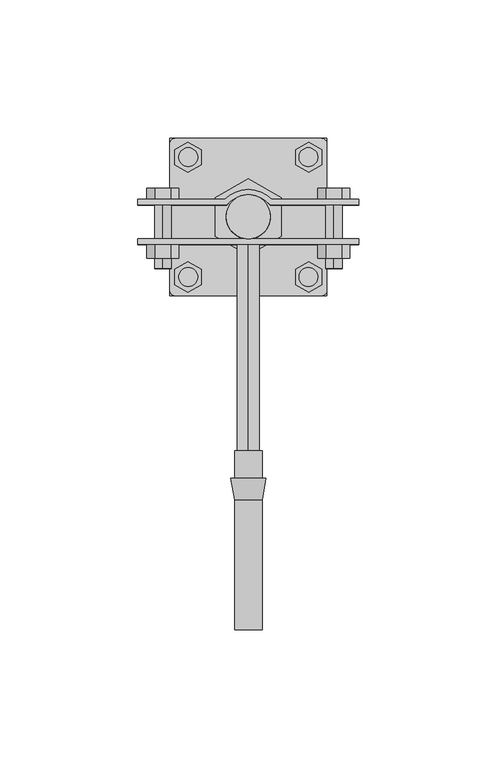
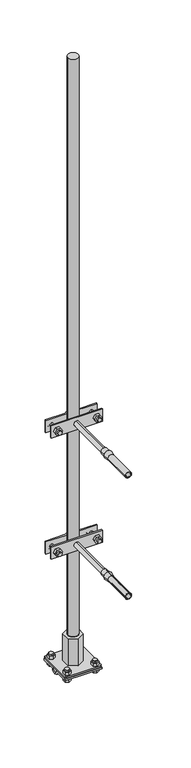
"""IFC4 building model written with IfcOpenShell, lengths in millimetres: proxy geometry, КНС_МолниеприемникСДержателями_DKC : NL7100CU_Медь_1м."""

from ifc_helpers import new_model, si_unit, point, frame, frame_2d, origin, origin_with_axes, place, context, project, spatial, polyline, circle_curve, trimmed, segment, composite_curve, outline, extrude, source, transform, mapped, element, save
from ifc_brep_helpers import plane_surface, cylinder_surface, revolved_surface, advanced_brep


def security_devices_521fa1ab(model_context):
    return source(origin(), model_context, "Body", "SolidModel", [
        extrude(outline(composite_curve([segment(trimmed(circle_curve(frame_2d((0.0, 84.6885885)), 8.0), [point((0.0, 76.6885885))], [point((0.0, 92.6885885))], False, "CARTESIAN"), True, "CONTINUOUS"), segment(trimmed(circle_curve(frame_2d((0.0, 84.6885885)), 8.0), [point((0.0, 92.6885885))], [point((0.0, 76.6885885))], False, "CARTESIAN"), True, "CONTINUOUS")], self_intersect=False)), frame((0.0, 0.0, 2.5), z_axis=(0.0, 0.0, 1.0), x_axis=(1.0, 0.0, 0.0)), (0.0, 0.0, 1.0), 45.0),
        extrude(outline(composite_curve([segment(polyline([(56.1885885, -3.5), (56.1885885, -1.0), (79.6885885, -1.0)]), True, "CONTINUOUS"), segment(trimmed(circle_curve(frame_2d((84.6885885, -1.0)), 5.0), [point((79.6885885, -1.0))], [point((89.6885885, -1.0))], True, "CARTESIAN"), True, "CONTINUOUS"), segment(polyline([(89.6885885, -1.0), (113.1885885, -1.0), (113.1885885, -3.5), (91.7596563, -3.5)]), True, "CONTINUOUS"), segment(trimmed(circle_curve(frame_2d((84.6885885, -1.0)), 7.5), [point((91.7596563, -3.5))], [point((77.6175207, -3.5))], False, "CARTESIAN"), True, "CONTINUOUS"), segment(polyline([(77.6175207, -3.5), (56.1885885, -3.5)]), True, "CONTINUOUS")], self_intersect=False)), frame((-28.5, 0.0, 0.0), z_axis=(1.0, 0.0, 0.0), x_axis=(0.0, 1.0, 0.0)), (0.0, 0.0, 1.0), 57.0),
        extrude(outline(composite_curve([segment(trimmed(circle_curve(frame_2d((-21.78125, 62.9764828)), 3.4209609), [point((-21.78125, 59.5555219))], [point((-21.78125, 66.3974437))], False, "CARTESIAN"), True, "CONTINUOUS"), segment(trimmed(circle_curve(frame_2d((-21.78125, 62.9764828)), 3.4209609), [point((-21.78125, 66.3974437))], [point((-21.78125, 59.5555219))], False, "CARTESIAN"), True, "CONTINUOUS")], self_intersect=False)), frame((0.0, 0.0, -3.5), z_axis=(0.0, 0.0, 1.0), x_axis=(1.0, 0.0, 0.0)), (0.0, 0.0, 1.0), 13.5),
        extrude(outline(composite_curve([segment(trimmed(circle_curve(frame_2d((-21.78125, 106.4006942)), 3.4209609), [point((-21.78125, 102.9797333))], [point((-21.78125, 109.8216551))], False, "CARTESIAN"), True, "CONTINUOUS"), segment(trimmed(circle_curve(frame_2d((-21.78125, 106.4006942)), 3.4209609), [point((-21.78125, 109.8216551))], [point((-21.78125, 102.9797333))], False, "CARTESIAN"), True, "CONTINUOUS")], self_intersect=False)), frame((0.0, 0.0, -3.5), z_axis=(0.0, 0.0, 1.0), x_axis=(1.0, 0.0, 0.0)), (0.0, 0.0, 1.0), 13.5),
        extrude(outline(composite_curve([segment(trimmed(circle_curve(frame_2d((21.78125, 62.9764828)), 3.4209609), [point((21.78125, 59.5555219))], [point((21.78125, 66.3974437))], False, "CARTESIAN"), True, "CONTINUOUS"), segment(trimmed(circle_curve(frame_2d((21.78125, 62.9764828)), 3.4209609), [point((21.78125, 66.3974437))], [point((21.78125, 59.5555219))], False, "CARTESIAN"), True, "CONTINUOUS")], self_intersect=False)), frame((0.0, 0.0, -3.5), z_axis=(0.0, 0.0, 1.0), x_axis=(1.0, 0.0, 0.0)), (0.0, 0.0, 1.0), 13.5),
        extrude(outline(composite_curve([segment(trimmed(circle_curve(frame_2d((21.78125, 106.4006942)), 3.4209609), [point((21.78125, 102.9797333))], [point((21.78125, 109.8216551))], False, "CARTESIAN"), True, "CONTINUOUS"), segment(trimmed(circle_curve(frame_2d((21.78125, 106.4006942)), 3.4209609), [point((21.78125, 109.8216551))], [point((21.78125, 102.9797333))], False, "CARTESIAN"), True, "CONTINUOUS")], self_intersect=False)), frame((0.0, 0.0, -3.5), z_axis=(0.0, 0.0, 1.0), x_axis=(1.0, 0.0, 0.0)), (0.0, 0.0, 1.0), 13.5),
        extrude(outline(polyline([(-21.8883083, 57.4889661), (-26.6406371, 60.2327244), (-26.6406371, 65.7202411), (-21.8883083, 68.4639995), (-17.1359794, 65.7202411), (-17.1359794, 60.2327244), (-21.8883083, 57.4889661)])), frame((0.0, 0.0, 2.5), z_axis=(0.0, 0.0, 1.0), x_axis=(1.0, 0.0, 0.0)), (0.0, 0.0, 1.0), 5.0),
        extrude(outline(polyline([(-21.8883083, 111.8882109), (-17.1359794, 109.1444525), (-17.1359794, 103.6569358), (-21.8883083, 100.9131775), (-26.6406371, 103.6569358), (-26.6406371, 109.1444525), (-21.8883083, 111.8882109)])), frame((0.0, 0.0, 2.5), z_axis=(0.0, 0.0, 1.0), x_axis=(1.0, 0.0, 0.0)), (0.0, 0.0, 1.0), 5.0),
        extrude(outline(polyline([(21.8883083, 57.4889661), (17.1359794, 60.2327244), (17.1359794, 65.7202411), (21.8883083, 68.4639995), (26.6406371, 65.7202411), (26.6406371, 60.2327244), (21.8883083, 57.4889661)])), frame((0.0, 0.0, 2.5), z_axis=(0.0, 0.0, 1.0), x_axis=(1.0, 0.0, 0.0)), (0.0, 0.0, 1.0), 5.0),
        extrude(outline(polyline([(21.8883083, 111.8882109), (26.6406371, 109.1444525), (26.6406371, 103.6569358), (21.8883083, 100.9131775), (17.1359794, 103.6569358), (17.1359794, 109.1444525), (21.8883083, 111.8882109)])), frame((0.0, 0.0, 2.5), z_axis=(0.0, 0.0, 1.0), x_axis=(1.0, 0.0, 0.0)), (0.0, 0.0, 1.0), 5.0),
        extrude(outline(polyline([(-21.8883083, 57.4889661), (-26.6406371, 60.2327244), (-26.6406371, 65.7202411), (-21.8883083, 68.4639995), (-17.1359794, 65.7202411), (-17.1359794, 60.2327244), (-21.8883083, 57.4889661)])), frame((0.0, 0.0, -8.5), z_axis=(0.0, 0.0, 1.0), x_axis=(1.0, 0.0, 0.0)), (0.0, 0.0, 1.0), 5.0),
        extrude(outline(polyline([(-21.8883083, 111.8882109), (-17.1359794, 109.1444525), (-17.1359794, 103.6569358), (-21.8883083, 100.9131775), (-26.6406371, 103.6569358), (-26.6406371, 109.1444525), (-21.8883083, 111.8882109)])), frame((0.0, 0.0, -8.5), z_axis=(0.0, 0.0, 1.0), x_axis=(1.0, 0.0, 0.0)), (0.0, 0.0, 1.0), 5.0),
        extrude(outline(polyline([(21.8883083, 57.4889661), (17.1359794, 60.2327244), (17.1359794, 65.7202411), (21.8883083, 68.4639995), (26.6406371, 65.7202411), (26.6406371, 60.2327244), (21.8883083, 57.4889661)])), frame((0.0, 0.0, -8.5), z_axis=(0.0, 0.0, 1.0), x_axis=(1.0, 0.0, 0.0)), (0.0, 0.0, 1.0), 5.0),
        extrude(outline(polyline([(21.8883083, 111.8882109), (26.6406371, 109.1444525), (26.6406371, 103.6569358), (21.8883083, 100.9131775), (17.1359794, 103.6569358), (17.1359794, 109.1444525), (21.8883083, 111.8882109)])), frame((0.0, 0.0, -8.5), z_axis=(0.0, 0.0, 1.0), x_axis=(1.0, 0.0, 0.0)), (0.0, 0.0, 1.0), 5.0),
        extrude(outline(composite_curve([segment(trimmed(circle_curve(frame_2d((-26.5, 111.1885885)), 2.0), [point((-28.5, 111.1885885))], [point((-26.5, 113.1885885))], False, "CARTESIAN"), True, "CONTINUOUS"), segment(polyline([(-26.5, 113.1885885), (26.5, 113.1885885)]), True, "CONTINUOUS"), segment(trimmed(circle_curve(frame_2d((26.5, 111.1885885)), 2.0), [point((26.5, 113.1885885))], [point((28.5, 111.1885885))], False, "CARTESIAN"), True, "CONTINUOUS"), segment(polyline([(28.5, 111.1885885), (28.5, 58.1885885)]), True, "CONTINUOUS"), segment(trimmed(circle_curve(frame_2d((26.5, 58.1885885)), 2.0), [point((28.5, 58.1885885))], [point((26.5, 56.1885885))], False, "CARTESIAN"), True, "CONTINUOUS"), segment(polyline([(26.5, 56.1885885), (-26.5, 56.1885885)]), True, "CONTINUOUS"), segment(trimmed(circle_curve(frame_2d((-26.5, 58.1885885)), 2.0), [point((-26.5, 56.1885885))], [point((-28.5, 58.1885885))], False, "CARTESIAN"), True, "CONTINUOUS"), segment(polyline([(-28.5, 58.1885885), (-28.5, 111.1885885)]), True, "CONTINUOUS")], self_intersect=False)), origin_with_axes(), (0.0, 0.0, 1.0), 2.5),
        advanced_brep(
        [(-40.0, 74.6885885, 410.0), (40.0, 74.6885885, 410.0), (40.0, 76.6885885, 410.0), (-40.0, 76.6885885, 410.0), (-40.0, 74.6885885, 390.0), (-40.0, 76.6885885, 390.0), (40.0, 76.6885885, 390.0), (40.0, 74.6885885, 390.0), (0.0, 74.6885885, 404.0), (0.0, 74.6885885, 396.0), (0.0, -65.0, 396.0), (0.0, -65.0, 404.0)],
        [
            (0, 1),
            (1, 2),
            (2, 3),
            (3, 0),
            (4, 5),
            (5, 6),
            (6, 7),
            (7, 4),
            (0, 4),
            (7, 1),
            (8, 9, circle_curve(frame((0.0, 74.6885885, 400.0), z_axis=(0.0, 1.0, 0.0), x_axis=(0.0, 0.0, 1.0)), 4.0)),
            (9, 8, circle_curve(frame((0.0, 74.6885885, 400.0), z_axis=(0.0, 1.0, 0.0), x_axis=(0.0, 0.0, 1.0)), 4.0)),
            (6, 2),
            (5, 3),
            (10, 11, circle_curve(frame((0.0, -65.0, 400.0), z_axis=(0.0, -1.0, 0.0), x_axis=(0.0, 0.0, 1.0)), 4.0)),
            (11, 10, circle_curve(frame((0.0, -65.0, 400.0), z_axis=(0.0, -1.0, 0.0), x_axis=(0.0, 0.0, 1.0)), 4.0)),
            (10, 9),
            (8, 11),
        ],
        [
            plane_surface(frame((-40.0, 74.6885885, 410.0), z_axis=(0.0, 0.0, 1.0), x_axis=(1.0, 0.0, 0.0))),
            plane_surface(frame((-40.0, 74.6885885, 390.0), z_axis=(0.0, 0.0, -1.0), x_axis=(-1.0, 0.0, 0.0))),
            plane_surface(frame((-40.0, 74.6885885, 410.0), z_axis=(0.0, -1.0, 0.0), x_axis=(0.0, 0.0, -1.0))),
            plane_surface(frame((40.0, 74.6885885, 410.0), z_axis=(1.0, 0.0, 0.0), x_axis=(0.0, 0.0, -1.0))),
            plane_surface(frame((40.0, 76.6885885, 410.0), z_axis=(0.0, 1.0, 0.0), x_axis=(0.0, 0.0, -1.0))),
            plane_surface(frame((-40.0, 76.6885885, 410.0), z_axis=(-1.0, 0.0, 0.0), x_axis=(0.0, 0.0, -1.0))),
            plane_surface(frame((0.0, -65.0, 404.0), z_axis=(0.0, -1.0, 0.0), x_axis=(-1.0, 0.0, 0.0))),
            cylinder_surface(frame((0.0, 76.6885885, 400.0), z_axis=(0.0, -1.0, 0.0), x_axis=(0.0, 0.0, 1.0)), 4.0),
        ],
        [
            (0, [[1, 2, 3, 4]]),
            (1, [[5, 6, 7, 8]]),
            (2, [[-1, 9, -8, 10], [11, 12]]),
            (3, [[-2, -10, -7, 13]]),
            (4, [[-3, -13, -6, 14]]),
            (5, [[-4, -14, -5, -9]]),
            (6, [[15, 16]]),
            (7, [[-15, 17, -11, 18]]),
            (7, [[-16, -18, -12, -17]]),
        ],
    ),
        advanced_brep(
        [(6.3810583, -10.0, 400.0), (-6.3810583, -10.0, 400.0), (-5.0, -10.0, 400.0), (5.0, -10.0, 400.0), (5.0, -17.8323707, 400.0), (-5.0, -17.8323707, 400.0), (5.0, -65.0, 400.0), (-5.0, -65.0, 400.0), (3.0, -65.0, 400.0), (-3.0, -65.0, 400.0), (3.0, 0.0, 400.0), (-3.0, 0.0, 400.0), (5.0, 0.0, 400.0), (-5.0, 0.0, 400.0)],
        [
            (0, 1, circle_curve(frame((0.0, -10.0, 400.0), z_axis=(0.0, 1.0, 0.0), x_axis=(-1.0, 0.0, 0.0)), 6.3810583)),
            (1, 2),
            (2, 3, circle_curve(frame((0.0, -10.0, 400.0), z_axis=(0.0, -1.0, 0.0), x_axis=(-1.0, 0.0, 0.0)), 5.0)),
            (3, 0),
            (1, 0, circle_curve(frame((0.0, -10.0, 400.0), z_axis=(0.0, 1.0, 0.0), x_axis=(-1.0, 0.0, 0.0)), 6.3810583)),
            (3, 2, circle_curve(frame((0.0, -10.0, 400.0), z_axis=(0.0, -1.0, 0.0), x_axis=(-1.0, 0.0, 0.0)), 5.0)),
            (4, 5, circle_curve(frame((0.0, -17.8323707, 400.0), z_axis=(0.0, 1.0, 0.0), x_axis=(-1.0, 0.0, 0.0)), 5.0)),
            (5, 1),
            (0, 4),
            (5, 4, circle_curve(frame((0.0, -17.8323707, 400.0), z_axis=(0.0, 1.0, 0.0), x_axis=(-1.0, 0.0, 0.0)), 5.0)),
            (6, 7, circle_curve(frame((0.0, -65.0, 400.0), z_axis=(0.0, 1.0, 0.0), x_axis=(-1.0, 0.0, 0.0)), 5.0)),
            (7, 5),
            (4, 6),
            (7, 6, circle_curve(frame((0.0, -65.0, 400.0), z_axis=(0.0, 1.0, 0.0), x_axis=(-1.0, 0.0, 0.0)), 5.0)),
            (8, 9, circle_curve(frame((0.0, -65.0, 400.0), z_axis=(0.0, 1.0, 0.0), x_axis=(-1.0, 0.0, 0.0)), 3.0)),
            (9, 7),
            (6, 8),
            (9, 8, circle_curve(frame((0.0, -65.0, 400.0), z_axis=(0.0, 1.0, 0.0), x_axis=(-1.0, 0.0, 0.0)), 3.0)),
            (10, 11, circle_curve(frame((0.0, 0.0, 400.0), z_axis=(0.0, 1.0, 0.0), x_axis=(-1.0, 0.0, 0.0)), 3.0)),
            (11, 9),
            (8, 10),
            (11, 10, circle_curve(frame((0.0, 0.0, 400.0), z_axis=(0.0, 1.0, 0.0), x_axis=(-1.0, 0.0, 0.0)), 3.0)),
            (12, 13, circle_curve(frame((0.0, 0.0, 400.0), z_axis=(0.0, 1.0, 0.0), x_axis=(-1.0, 0.0, 0.0)), 5.0)),
            (13, 11),
            (10, 12),
            (13, 12, circle_curve(frame((0.0, 0.0, 400.0), z_axis=(0.0, 1.0, 0.0), x_axis=(-1.0, 0.0, 0.0)), 5.0)),
            (2, 13),
            (12, 3),
        ],
        [
            plane_surface(frame((0.0, -10.0, 400.0), z_axis=(0.0, 1.0, 0.0), x_axis=(-1.0, 0.0, 0.0))),
            revolved_surface(polyline([(-6.3810583, -10.0, 400.0), (-5.0, -17.8323707, 400.0)]), (0.0, 2000.0, 400.0), (0.0, -1.0, 0.0)),
            cylinder_surface(frame((0.0, 2000.0, 400.0), z_axis=(0.0, -1.0, 0.0), x_axis=(-1.0, 0.0, 0.0)), 5.0),
            plane_surface(frame((0.0, -65.0, 400.0), z_axis=(0.0, -1.0, 0.0), x_axis=(-1.0, 0.0, 0.0))),
            revolved_surface(polyline([(-3.0, -65.0, 400.0), (-3.0, 0.0, 400.0)]), (0.0, 2000.0, 400.0), (0.0, -1.0, 0.0)),
            plane_surface(frame((0.0, 0.0, 400.0), z_axis=(0.0, 1.0, 0.0), x_axis=(-1.0, 0.0, 0.0))),
        ],
        [
            (0, [[1, 2, 3, 4]]),
            (0, [[5, -4, 6, -2]]),
            (1, [[7, 8, -1, 9]]),
            (1, [[10, -9, -5, -8]]),
            (2, [[11, 12, -7, 13]]),
            (2, [[14, -13, -10, -12]]),
            (3, [[15, 16, -11, 17]]),
            (3, [[18, -17, -14, -16]]),
            (4, [[19, 20, -15, 21]]),
            (4, [[22, -21, -18, -20]]),
            (5, [[23, 24, -19, 25]]),
            (5, [[26, -25, -22, -24]]),
            (2, [[-3, 27, -23, 28]]),
            (2, [[-6, -28, -26, -27]]),
        ],
    ),
        extrude(outline(polyline([(400.0, 36.7735027), (405.0, 33.8867513), (405.0, 28.1132487), (400.0, 25.2264973), (395.0, 28.1132487), (395.0, 33.8867513), (400.0, 36.7735027)])), frame((0.0, 69.6885885, 0.0), z_axis=(0.0, 1.0, 0.0), x_axis=(0.0, 0.0, 1.0)), (0.0, 0.0, 1.0), 5.0),
        extrude(outline(polyline([(400.0, -25.2264973), (405.0, -28.1132487), (405.0, -33.8867513), (400.0, -36.7735027), (395.0, -33.8867513), (395.0, -28.1132487), (400.0, -25.2264973)])), frame((0.0, 69.6885885, 0.0), z_axis=(0.0, 1.0, 0.0), x_axis=(0.0, 0.0, 1.0)), (0.0, 0.0, 1.0), 5.0),
        extrude(outline(composite_curve([segment(trimmed(circle_curve(frame_2d((400.0, 31.0)), 3.0), [point((397.0, 31.0))], [point((403.0, 31.0))], False, "CARTESIAN"), True, "CONTINUOUS"), segment(trimmed(circle_curve(frame_2d((400.0, 31.0)), 3.0), [point((403.0, 31.0))], [point((397.0, 31.0))], False, "CARTESIAN"), True, "CONTINUOUS")], self_intersect=False)), frame((0.0, 66.0, 0.0), z_axis=(0.0, 1.0, 0.0), x_axis=(0.0, 0.0, 1.0)), (0.0, 0.0, 1.0), 25.0),
        extrude(outline(polyline([(400.0, 36.7735027), (405.0, 33.8867513), (405.0, 28.1132487), (400.0, 25.2264973), (395.0, 28.1132487), (395.0, 33.8867513), (400.0, 36.7735027)])), frame((0.0, 91.0, 0.0), z_axis=(0.0, 1.0, 0.0), x_axis=(0.0, 0.0, 1.0)), (0.0, 0.0, 1.0), 4.0),
        extrude(outline(polyline([(400.0, -25.2264973), (405.0, -28.1132487), (405.0, -33.8867513), (400.0, -36.7735027), (395.0, -33.8867513), (395.0, -28.1132487), (400.0, -25.2264973)])), frame((0.0, 91.0, 0.0), z_axis=(0.0, 1.0, 0.0), x_axis=(0.0, 0.0, 1.0)), (0.0, 0.0, 1.0), 4.0),
        extrude(outline(composite_curve([segment(trimmed(circle_curve(frame_2d((400.0, -31.0)), 3.0), [point((397.0, -31.0))], [point((403.0, -31.0))], False, "CARTESIAN"), True, "CONTINUOUS"), segment(trimmed(circle_curve(frame_2d((400.0, -31.0)), 3.0), [point((403.0, -31.0))], [point((397.0, -31.0))], False, "CARTESIAN"), True, "CONTINUOUS")], self_intersect=False)), frame((0.0, 66.0, 0.0), z_axis=(0.0, 1.0, 0.0), x_axis=(0.0, 0.0, 1.0)), (0.0, 0.0, 1.0), 25.0),
        extrude(outline(composite_curve([segment(trimmed(circle_curve(frame_2d((0.0, 82.8700945)), 11.7620306), [point((-8.5, 91.0))], [point((8.5, 91.0))], False, "CARTESIAN"), True, "CONTINUOUS"), segment(polyline([(8.5, 91.0), (40.0, 91.0), (40.0, 89.0), (7.9035116, 89.0)]), True, "CONTINUOUS"), segment(trimmed(circle_curve(frame_2d((0.0, 82.3768959)), 10.3116926), [point((7.9035116, 89.0))], [point((-7.9035116, 89.0))], True, "CARTESIAN"), True, "CONTINUOUS"), segment(polyline([(-7.9035116, 89.0), (-40.0, 89.0), (-40.0, 91.0), (-8.5, 91.0)]), True, "CONTINUOUS")], self_intersect=False)), frame((0.0, 0.0, 390.0), z_axis=(0.0, 0.0, 1.0), x_axis=(1.0, 0.0, 0.0)), (0.0, 0.0, 1.0), 20.0),
        advanced_brep(
        [(-40.0, 74.6885885, 210.0), (40.0, 74.6885885, 210.0), (40.0, 76.6885885, 210.0), (-40.0, 76.6885885, 210.0), (-40.0, 74.6885885, 190.0), (-40.0, 76.6885885, 190.0), (40.0, 76.6885885, 190.0), (40.0, 74.6885885, 190.0), (0.0, 74.6885885, 204.0), (0.0, 74.6885885, 196.0), (0.0, -65.0, 196.0), (0.0, -65.0, 204.0)],
        [
            (0, 1),
            (1, 2),
            (2, 3),
            (3, 0),
            (4, 5),
            (5, 6),
            (6, 7),
            (7, 4),
            (0, 4),
            (7, 1),
            (8, 9, circle_curve(frame((0.0, 74.6885885, 200.0), z_axis=(0.0, 1.0, 0.0), x_axis=(0.0, 0.0, 1.0)), 4.0)),
            (9, 8, circle_curve(frame((0.0, 74.6885885, 200.0), z_axis=(0.0, 1.0, 0.0), x_axis=(0.0, 0.0, 1.0)), 4.0)),
            (6, 2),
            (5, 3),
            (10, 11, circle_curve(frame((0.0, -65.0, 200.0), z_axis=(0.0, -1.0, 0.0), x_axis=(0.0, 0.0, 1.0)), 4.0)),
            (11, 10, circle_curve(frame((0.0, -65.0, 200.0), z_axis=(0.0, -1.0, 0.0), x_axis=(0.0, 0.0, 1.0)), 4.0)),
            (10, 9),
            (8, 11),
        ],
        [
            plane_surface(frame((-40.0, 74.6885885, 210.0), z_axis=(0.0, 0.0, 1.0), x_axis=(1.0, 0.0, 0.0))),
            plane_surface(frame((-40.0, 74.6885885, 190.0), z_axis=(0.0, 0.0, -1.0), x_axis=(-1.0, 0.0, 0.0))),
            plane_surface(frame((-40.0, 74.6885885, 210.0), z_axis=(0.0, -1.0, 0.0), x_axis=(0.0, 0.0, -1.0))),
            plane_surface(frame((40.0, 74.6885885, 210.0), z_axis=(1.0, 0.0, 0.0), x_axis=(0.0, 0.0, -1.0))),
            plane_surface(frame((40.0, 76.6885885, 210.0), z_axis=(0.0, 1.0, 0.0), x_axis=(0.0, 0.0, -1.0))),
            plane_surface(frame((-40.0, 76.6885885, 210.0), z_axis=(-1.0, 0.0, 0.0), x_axis=(0.0, 0.0, -1.0))),
            plane_surface(frame((0.0, -65.0, 204.0), z_axis=(0.0, -1.0, 0.0), x_axis=(-1.0, 0.0, 0.0))),
            cylinder_surface(frame((0.0, 76.6885885, 200.0), z_axis=(0.0, -1.0, 0.0), x_axis=(0.0, 0.0, 1.0)), 4.0),
        ],
        [
            (0, [[1, 2, 3, 4]]),
            (1, [[5, 6, 7, 8]]),
            (2, [[-1, 9, -8, 10], [11, 12]]),
            (3, [[-2, -10, -7, 13]]),
            (4, [[-3, -13, -6, 14]]),
            (5, [[-4, -14, -5, -9]]),
            (6, [[15, 16]]),
            (7, [[-15, 17, -11, 18]]),
            (7, [[-16, -18, -12, -17]]),
        ],
    ),
        advanced_brep(
        [(6.3810583, -10.0, 200.0), (-6.3810583, -10.0, 200.0), (-5.0, -10.0, 200.0), (5.0, -10.0, 200.0), (5.0, -17.8323707, 200.0), (-5.0, -17.8323707, 200.0), (5.0, -65.0, 200.0), (-5.0, -65.0, 200.0), (3.0, -65.0, 200.0), (-3.0, -65.0, 200.0), (3.0, 0.0, 200.0), (-3.0, 0.0, 200.0), (5.0, 0.0, 200.0), (-5.0, 0.0, 200.0)],
        [
            (0, 1, circle_curve(frame((0.0, -10.0, 200.0), z_axis=(0.0, 1.0, 0.0), x_axis=(-1.0, 0.0, 0.0)), 6.3810583)),
            (1, 2),
            (2, 3, circle_curve(frame((0.0, -10.0, 200.0), z_axis=(0.0, -1.0, 0.0), x_axis=(-1.0, 0.0, 0.0)), 5.0)),
            (3, 0),
            (1, 0, circle_curve(frame((0.0, -10.0, 200.0), z_axis=(0.0, 1.0, 0.0), x_axis=(-1.0, 0.0, 0.0)), 6.3810583)),
            (3, 2, circle_curve(frame((0.0, -10.0, 200.0), z_axis=(0.0, -1.0, 0.0), x_axis=(-1.0, 0.0, 0.0)), 5.0)),
            (4, 5, circle_curve(frame((0.0, -17.8323707, 200.0), z_axis=(0.0, 1.0, 0.0), x_axis=(-1.0, 0.0, 0.0)), 5.0)),
            (5, 1),
            (0, 4),
            (5, 4, circle_curve(frame((0.0, -17.8323707, 200.0), z_axis=(0.0, 1.0, 0.0), x_axis=(-1.0, 0.0, 0.0)), 5.0)),
            (6, 7, circle_curve(frame((0.0, -65.0, 200.0), z_axis=(0.0, 1.0, 0.0), x_axis=(-1.0, 0.0, 0.0)), 5.0)),
            (7, 5),
            (4, 6),
            (7, 6, circle_curve(frame((0.0, -65.0, 200.0), z_axis=(0.0, 1.0, 0.0), x_axis=(-1.0, 0.0, 0.0)), 5.0)),
            (8, 9, circle_curve(frame((0.0, -65.0, 200.0), z_axis=(0.0, 1.0, 0.0), x_axis=(-1.0, 0.0, 0.0)), 3.0)),
            (9, 7),
            (6, 8),
            (9, 8, circle_curve(frame((0.0, -65.0, 200.0), z_axis=(0.0, 1.0, 0.0), x_axis=(-1.0, 0.0, 0.0)), 3.0)),
            (10, 11, circle_curve(frame((0.0, 0.0, 200.0), z_axis=(0.0, 1.0, 0.0), x_axis=(-1.0, 0.0, 0.0)), 3.0)),
            (11, 9),
            (8, 10),
            (11, 10, circle_curve(frame((0.0, 0.0, 200.0), z_axis=(0.0, 1.0, 0.0), x_axis=(-1.0, 0.0, 0.0)), 3.0)),
            (12, 13, circle_curve(frame((0.0, 0.0, 200.0), z_axis=(0.0, 1.0, 0.0), x_axis=(-1.0, 0.0, 0.0)), 5.0)),
            (13, 11),
            (10, 12),
            (13, 12, circle_curve(frame((0.0, 0.0, 200.0), z_axis=(0.0, 1.0, 0.0), x_axis=(-1.0, 0.0, 0.0)), 5.0)),
            (2, 13),
            (12, 3),
        ],
        [
            plane_surface(frame((0.0, -10.0, 200.0), z_axis=(0.0, 1.0, 0.0), x_axis=(-1.0, 0.0, 0.0))),
            revolved_surface(polyline([(-6.3810583, -10.0, 200.0), (-5.0, -17.8323707, 200.0)]), (0.0, 2000.0, 200.0), (0.0, -1.0, 0.0)),
            cylinder_surface(frame((0.0, 2000.0, 200.0), z_axis=(0.0, -1.0, 0.0), x_axis=(-1.0, 0.0, 0.0)), 5.0),
            plane_surface(frame((0.0, -65.0, 200.0), z_axis=(0.0, -1.0, 0.0), x_axis=(-1.0, 0.0, 0.0))),
            revolved_surface(polyline([(-3.0, -65.0, 200.0), (-3.0, 0.0, 200.0)]), (0.0, 2000.0, 200.0), (0.0, -1.0, 0.0)),
            plane_surface(frame((0.0, 0.0, 200.0), z_axis=(0.0, 1.0, 0.0), x_axis=(-1.0, 0.0, 0.0))),
        ],
        [
            (0, [[1, 2, 3, 4]]),
            (0, [[5, -4, 6, -2]]),
            (1, [[7, 8, -1, 9]]),
            (1, [[10, -9, -5, -8]]),
            (2, [[11, 12, -7, 13]]),
            (2, [[14, -13, -10, -12]]),
            (3, [[15, 16, -11, 17]]),
            (3, [[18, -17, -14, -16]]),
            (4, [[19, 20, -15, 21]]),
            (4, [[22, -21, -18, -20]]),
            (5, [[23, 24, -19, 25]]),
            (5, [[26, -25, -22, -24]]),
            (2, [[-3, 27, -23, 28]]),
            (2, [[-6, -28, -26, -27]]),
        ],
    ),
        extrude(outline(polyline([(200.0, 36.7735027), (205.0, 33.8867513), (205.0, 28.1132487), (200.0, 25.2264973), (195.0, 28.1132487), (195.0, 33.8867513), (200.0, 36.7735027)])), frame((0.0, 69.6885885, 0.0), z_axis=(0.0, 1.0, 0.0), x_axis=(0.0, 0.0, 1.0)), (0.0, 0.0, 1.0), 5.0),
        extrude(outline(polyline([(200.0, -25.2264973), (205.0, -28.1132487), (205.0, -33.8867513), (200.0, -36.7735027), (195.0, -33.8867513), (195.0, -28.1132487), (200.0, -25.2264973)])), frame((0.0, 69.6885885, 0.0), z_axis=(0.0, 1.0, 0.0), x_axis=(0.0, 0.0, 1.0)), (0.0, 0.0, 1.0), 5.0),
        extrude(outline(composite_curve([segment(trimmed(circle_curve(frame_2d((200.0, 31.0)), 3.0), [point((197.0, 31.0))], [point((203.0, 31.0))], False, "CARTESIAN"), True, "CONTINUOUS"), segment(trimmed(circle_curve(frame_2d((200.0, 31.0)), 3.0), [point((203.0, 31.0))], [point((197.0, 31.0))], False, "CARTESIAN"), True, "CONTINUOUS")], self_intersect=False)), frame((0.0, 66.0, 0.0), z_axis=(0.0, 1.0, 0.0), x_axis=(0.0, 0.0, 1.0)), (0.0, 0.0, 1.0), 25.0),
        extrude(outline(polyline([(200.0, 36.7735027), (205.0, 33.8867513), (205.0, 28.1132487), (200.0, 25.2264973), (195.0, 28.1132487), (195.0, 33.8867513), (200.0, 36.7735027)])), frame((0.0, 91.0, 0.0), z_axis=(0.0, 1.0, 0.0), x_axis=(0.0, 0.0, 1.0)), (0.0, 0.0, 1.0), 4.0),
        extrude(outline(polyline([(200.0, -25.2264973), (205.0, -28.1132487), (205.0, -33.8867513), (200.0, -36.7735027), (195.0, -33.8867513), (195.0, -28.1132487), (200.0, -25.2264973)])), frame((0.0, 91.0, 0.0), z_axis=(0.0, 1.0, 0.0), x_axis=(0.0, 0.0, 1.0)), (0.0, 0.0, 1.0), 4.0),
        extrude(outline(composite_curve([segment(trimmed(circle_curve(frame_2d((200.0, -31.0)), 3.0), [point((197.0, -31.0))], [point((203.0, -31.0))], False, "CARTESIAN"), True, "CONTINUOUS"), segment(trimmed(circle_curve(frame_2d((200.0, -31.0)), 3.0), [point((203.0, -31.0))], [point((197.0, -31.0))], False, "CARTESIAN"), True, "CONTINUOUS")], self_intersect=False)), frame((0.0, 66.0, 0.0), z_axis=(0.0, 1.0, 0.0), x_axis=(0.0, 0.0, 1.0)), (0.0, 0.0, 1.0), 25.0),
        extrude(outline(composite_curve([segment(trimmed(circle_curve(frame_2d((0.0, 82.8700945)), 11.7620306), [point((-8.5, 91.0))], [point((8.5, 91.0))], False, "CARTESIAN"), True, "CONTINUOUS"), segment(polyline([(8.5, 91.0), (40.0, 91.0), (40.0, 89.0), (7.9035116, 89.0)]), True, "CONTINUOUS"), segment(trimmed(circle_curve(frame_2d((0.0, 82.3768959)), 10.3116926), [point((7.9035116, 89.0))], [point((-7.9035116, 89.0))], True, "CARTESIAN"), True, "CONTINUOUS"), segment(polyline([(-7.9035116, 89.0), (-40.0, 89.0), (-40.0, 91.0), (-8.5, 91.0)]), True, "CONTINUOUS")], self_intersect=False)), frame((0.0, 0.0, 190.0), z_axis=(0.0, 0.0, 1.0), x_axis=(1.0, 0.0, 0.0)), (0.0, 0.0, 1.0), 20.0),
        extrude(outline(polyline([(0.0, 98.5449949), (12.0, 91.6167917), (12.0, 77.7603852), (0.0, 70.832182), (-12.0, 77.7603852), (-12.0, 91.6167917), (0.0, 98.5449949)])), frame((0.0, 0.0, 2.5), z_axis=(0.0, 0.0, 1.0), x_axis=(1.0, 0.0, 0.0)), (0.0, 0.0, 1.0), 45.0),
        extrude(outline(composite_curve([segment(trimmed(circle_curve(frame_2d((0.0, 84.6885885)), 8.0), [point((-8.0, 84.6885885))], [point((8.0, 84.6885885))], False, "CARTESIAN"), True, "CONTINUOUS"), segment(trimmed(circle_curve(frame_2d((0.0, 84.6885885)), 8.0), [point((8.0, 84.6885885))], [point((-8.0, 84.6885885))], False, "CARTESIAN"), True, "CONTINUOUS")], self_intersect=False)), origin_with_axes(), (0.0, 0.0, 1.0), 1000.0),
    ])


if __name__ == "__main__":
    model = new_model("IFC4")
    model_context = context("Model", 3, world=origin())
    ifc_project = project(units=[si_unit("LENGTHUNIT", "METRE", prefix="MILLI")], contexts=[model_context])
    site = spatial("IfcSite", under=ifc_project)
    building = spatial("IfcBuilding", under=site)
    placement = place(None, origin())
    security_devices_shape = security_devices_521fa1ab(model_context)
    element("IfcBuildingElementProxy", 1, Name="КНС_МолниеприемникСДержателями_DKC : NL7100CU_Медь_1м", ObjectType="КНС_МолниеприемникСДержателями_DKC : NL7100CU_Медь_1м", at=placement, inside=building, context=model_context, shape_type="MappedRepresentation", body=[
        mapped(security_devices_shape, transform((0.0, 0.0, 0.0), x_axis=(1.0, 0.0, 0.0), y_axis=(0.0, 1.0, 0.0), z_axis=(0.0, 0.0, 1.0))),
    ])
    save(model, "model.ifc")
